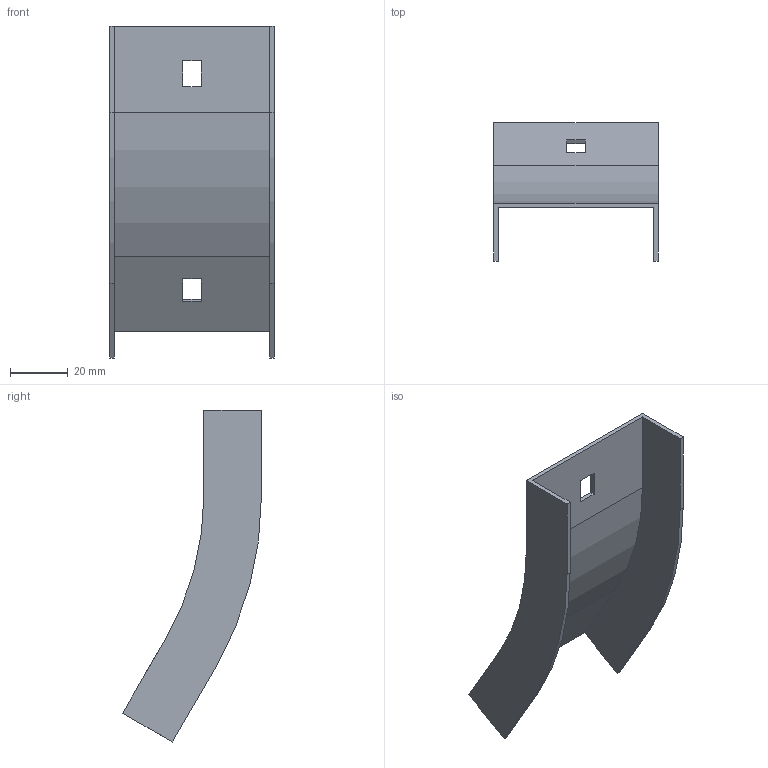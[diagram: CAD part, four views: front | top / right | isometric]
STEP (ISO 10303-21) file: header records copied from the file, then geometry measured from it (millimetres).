
FILE_DESCRIPTION (( 'STEP AP214' ), '1' );
FILE_NAME ('32G1P050.step', '2025-02-21T12:46:47', ( '' ), ( '' ), 'SwSTEP 2.0', 'SolidWorks 2023', '' );
FILE_SCHEMA (( 'AUTOMOTIVE_DESIGN' ));
Length unit declared in the file: millimetre
Products named in the file (1): 32G1P050
Bounding box: 57 x 48.2 x 115.23 mm (x, y, z)
Volume: 15902.5 mm3; surface area: 21943.3 mm2
Topology: 1 solids, 1 shells, 26 faces, 72 edges, 48 vertices
Faces by surface type: plane 22, cylinder 4
Entity records: 855 total; most frequent: CARTESIAN_POINT 147, ORIENTED_EDGE 144, DIRECTION 134, EDGE_CURVE 72, LINE 64, VECTOR 64, VERTEX_POINT 48, AXIS2_PLACEMENT_3D 35
